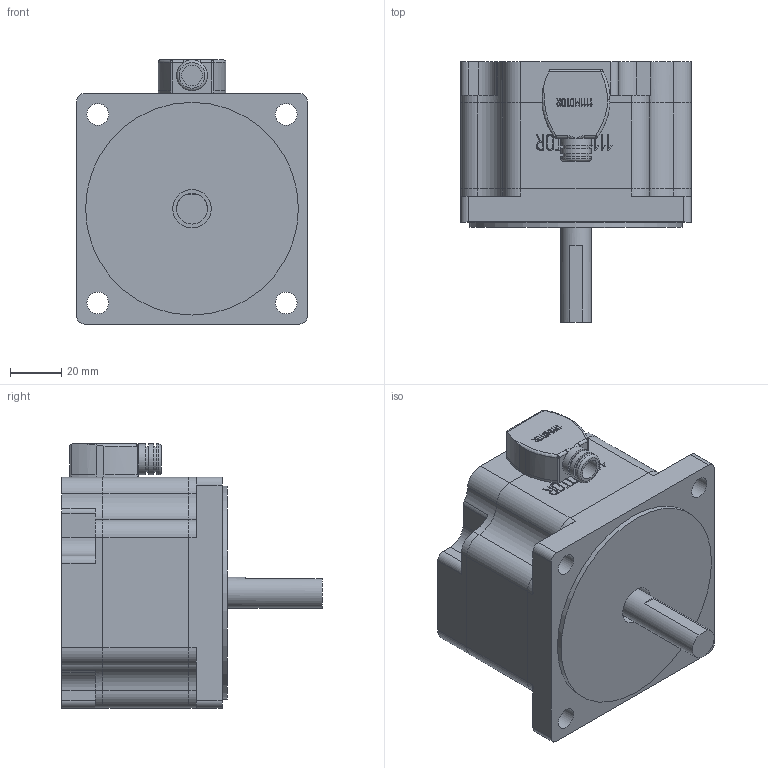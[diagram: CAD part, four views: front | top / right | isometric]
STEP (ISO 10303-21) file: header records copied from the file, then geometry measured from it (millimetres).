
FILE_DESCRIPTION(/* description */ ('Unknown'),/* implementation_level */ '2;1');
FILE_NAME(/* name */ 'BL90S',/* time_stamp */ '2020-12-29T11:24:13+08:00',/* author */ ('Unknown'),/* organization */ ('Unknown'),/* preprocessor_version */ 'ST-DEVELOPER v16.7',/* originating_system */ 'DEX',/* authorisation */ $);
FILE_SCHEMA (('AUTOMOTIVE_DESIGN {1 0 10303 214 3 1 1}'));
Length unit declared in the file: millimetre
Products named in the file (6): BL90S; BL90前4; BL90後0; BL90軸7; BL90保護2; BL90S¾÷ntationRefs
Assembly tree (5 placements, depth 2):
  BL90S
    BL90前4
    BL90後0
    BL90軸7
    BL90保護2
    BL90S¾÷ntationRefs
Bounding box: 90 x 101.5 x 103 mm (x, y, z)
Volume: 275903.9 mm3; surface area: 75690.7 mm2
Topology: 5 solids, 5 shells, 314 faces, 822 edges, 545 vertices
Faces by surface type: plane 196, cylinder 87, bspline 27, sphere 3, torus 1
Full cylindrical faces by diameter (mm): 3.242 x4, 8 x1, 8.5 x4, 10 x2, 12 x4, 15 x1, 20.8 x1, 30 x1, 80 x2, 83 x1
Entity records: 12750 total; most frequent: CARTESIAN_POINT 2937, ORIENTED_EDGE 1544, DIRECTION 1488, EDGE_CURVE 772, LINE 536, VECTOR 536, VERTEX_POINT 530, AXIS2_PLACEMENT_3D 476
